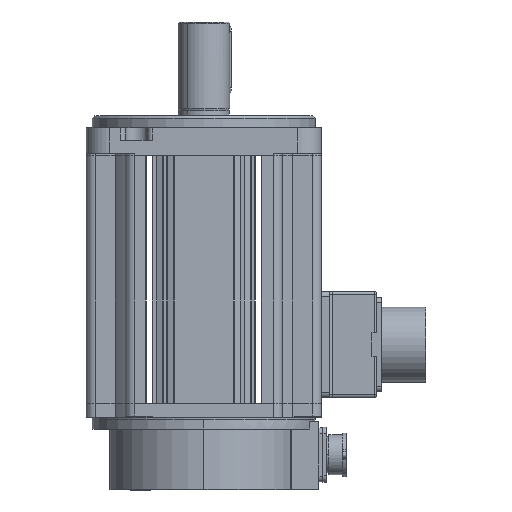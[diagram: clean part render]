
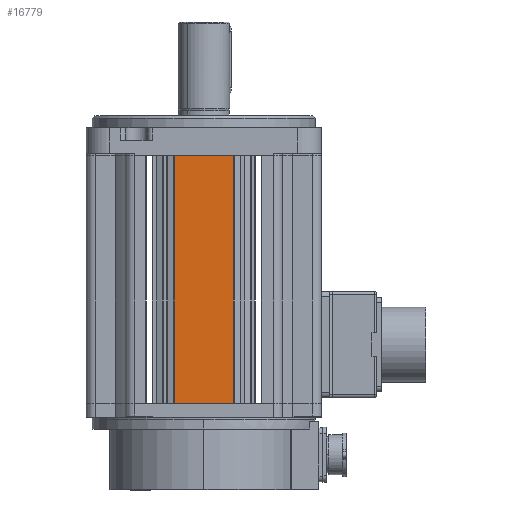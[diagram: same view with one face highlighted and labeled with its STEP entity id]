
A CAD part, front view. The second image highlights one B-rep face of the part: STEP entity #16779.
In plain terms, the highlighted planar face has unit normal (0, -1, 0).
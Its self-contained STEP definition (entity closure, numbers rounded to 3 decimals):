
#1810 = DIRECTION ( 'NONE',  ( -1., 0., 0. ) ) ;
#3817 = LINE ( 'NONE', #22935, #22562 ) ;
#4032 = CARTESIAN_POINT ( 'NONE',  ( -28.979, -53.66, 160.876 ) ) ;
#4855 = VECTOR ( 'NONE', #26756, 1000. ) ;
#4897 = CARTESIAN_POINT ( 'NONE',  ( -3.579, -53.66, 160.876 ) ) ;
#6407 = CARTESIAN_POINT ( 'NONE',  ( -3.579, -53.66, 160.876 ) ) ;
#6460 = LINE ( 'NONE', #10178, #14244 ) ;
#8539 = VERTEX_POINT ( 'NONE', #19571 ) ;
#8673 = ORIENTED_EDGE ( 'NONE', *, *, #22148, .T. ) ;
#8719 = VERTEX_POINT ( 'NONE', #29250 ) ;
#9183 = AXIS2_PLACEMENT_3D ( 'NONE', #26671, #15300, #1810 ) ;
#10178 = CARTESIAN_POINT ( 'NONE',  ( -28.979, -53.66, 160.876 ) ) ;
#11363 = LINE ( 'NONE', #4897, #18757 ) ;
#12537 = EDGE_CURVE ( 'NONE', #8539, #14925, #11363, .T. ) ;
#14244 = VECTOR ( 'NONE', #19204, 1000. ) ;
#14925 = VERTEX_POINT ( 'NONE', #6407 ) ;
#15300 = DIRECTION ( 'NONE',  ( 0., 1., 0. ) ) ;
#15485 = CARTESIAN_POINT ( 'NONE',  ( 13.221, -53.66, 160.876 ) ) ;
#16779 = ADVANCED_FACE ( 'NONE', ( #24293 ), #22240, .F. ) ;
#17905 = LINE ( 'NONE', #15485, #4855 ) ;
#18501 = DIRECTION ( 'NONE',  ( 0., 0., 1. ) ) ;
#18757 = VECTOR ( 'NONE', #18501, 1000. ) ;
#19090 = EDGE_CURVE ( 'NONE', #27685, #8719, #6460, .T. ) ;
#19204 = DIRECTION ( 'NONE',  ( 0., 0., -1. ) ) ;
#19571 = CARTESIAN_POINT ( 'NONE',  ( -3.579, -53.66, 55.376 ) ) ;
#20919 = EDGE_LOOP ( 'NONE', ( #8673, #25920, #21987, #22624 ) ) ;
#21987 = ORIENTED_EDGE ( 'NONE', *, *, #22536, .F. ) ;
#22148 = EDGE_CURVE ( 'NONE', #8719, #8539, #3817, .T. ) ;
#22240 = PLANE ( 'NONE',  #9183 ) ;
#22536 = EDGE_CURVE ( 'NONE', #27685, #14925, #17905, .T. ) ;
#22562 = VECTOR ( 'NONE', #27176, 1000. ) ;
#22624 = ORIENTED_EDGE ( 'NONE', *, *, #19090, .T. ) ;
#22935 = CARTESIAN_POINT ( 'NONE',  ( 13.221, -53.66, 55.376 ) ) ;
#24293 = FACE_OUTER_BOUND ( 'NONE', #20919, .T. ) ;
#25920 = ORIENTED_EDGE ( 'NONE', *, *, #12537, .T. ) ;
#26671 = CARTESIAN_POINT ( 'NONE',  ( 13.221, -53.66, 160.876 ) ) ;
#26756 = DIRECTION ( 'NONE',  ( 1., 0., 0. ) ) ;
#27176 = DIRECTION ( 'NONE',  ( 1., 0., 0. ) ) ;
#27685 = VERTEX_POINT ( 'NONE', #4032 ) ;
#29250 = CARTESIAN_POINT ( 'NONE',  ( -28.979, -53.66, 55.376 ) ) ;
